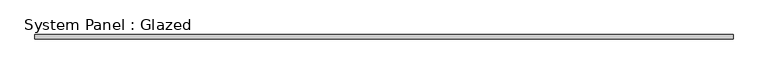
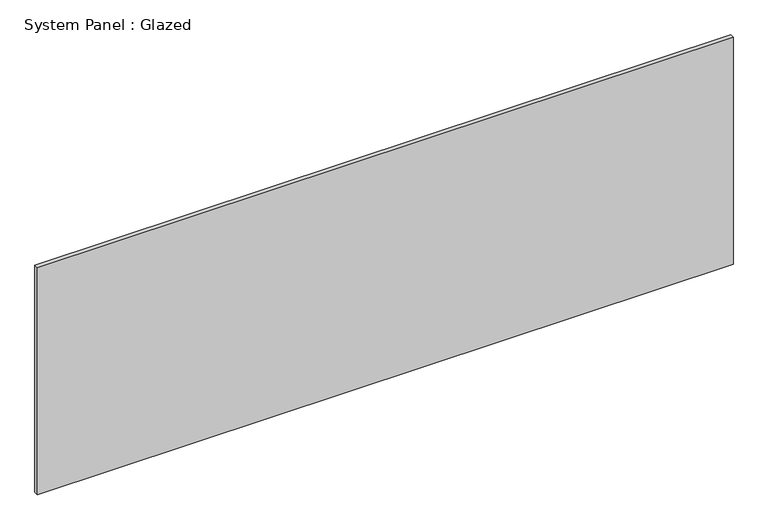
"""IFC4 building model written with IfcOpenShell, lengths in millimetres: plate geometry, System Panel : Glazed."""

from ifc_helpers import new_model, si_unit, origin, origin_with_axes, place, context, project, spatial, polyline, outline, extrude, source, transform, mapped, element, save


def system_panel_glazed_1aea73b9(model_context):
    return source(origin(), model_context, "Body", "SweptSolid", [
        extrude(outline(polyline([(1449.9166667, -9.0), (-1449.9166667, -9.0), (-1449.9166667, 9.0), (1449.9166667, 9.0), (1449.9166667, -9.0)])), origin_with_axes(), (0.0, 0.0, 1.0), 999.8333333),
    ])


if __name__ == "__main__":
    model = new_model("IFC4")
    model_context = context("Model", 3, world=origin())
    ifc_project = project(units=[si_unit("LENGTHUNIT", "METRE", prefix="MILLI")], contexts=[model_context])
    site = spatial("IfcSite", under=ifc_project)
    building = spatial("IfcBuilding", under=site)
    placement = place(None, origin())
    system_panel_glazed_shape = system_panel_glazed_1aea73b9(model_context)
    element("IfcPlate", 1, ObjectType="System Panel : Glazed", at=placement, inside=building, context=model_context, shape_type="MappedRepresentation", body=[
        mapped(system_panel_glazed_shape, transform((0.0, 0.0, 0.0), x_axis=(1.0, 0.0, 0.0), y_axis=(0.0, 1.0, 0.0), z_axis=(0.0, 0.0, 1.0))),
    ])
    save(model, "model.ifc")
